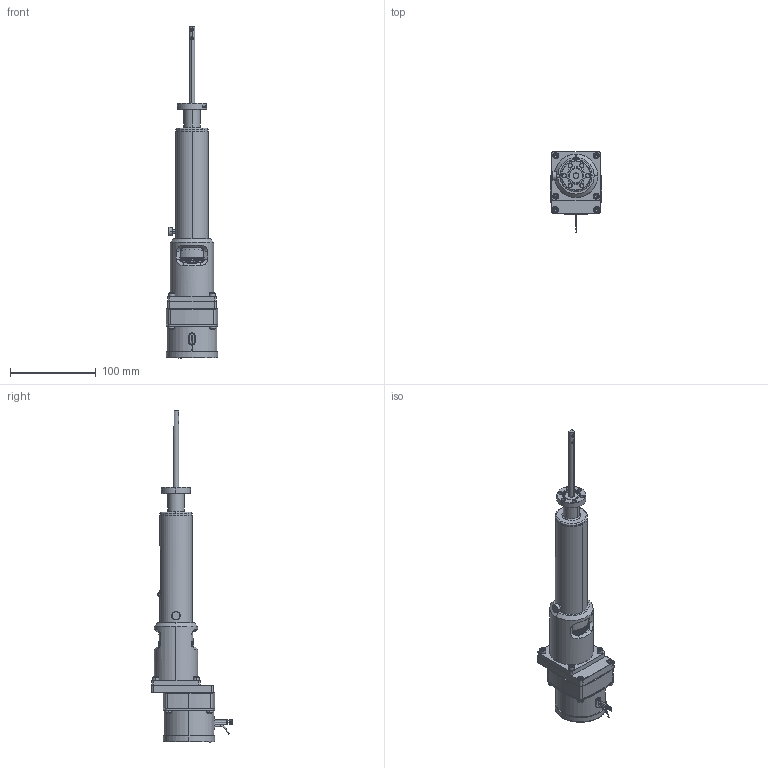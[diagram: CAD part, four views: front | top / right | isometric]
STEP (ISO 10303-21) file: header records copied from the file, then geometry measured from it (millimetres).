
FILE_DESCRIPTION (( 'STEP AP203' ), '1' );
FILE_NAME ('102210.21.stp', '2019-04-02T15:54:57', ( '' ), ( '' ), 'SwSTEP 2.0', 'SolidWorks 2012', '' );
FILE_SCHEMA (( 'CONFIG_CONTROL_DESIGN' ));
Products named in the file (1): 102210.21
Bounding box: 60.33 x 93.89 x 386.41 mm (x, y, z)
Volume: 502338.6 mm3; surface area: 60845.5 mm2
Topology: 1 solids, 10 shells, 1890 faces, 5239 edges, 3424 vertices
Faces by surface type: plane 1018, cylinder 524, cone 179, bspline 169
Entity records: 91715 total; most frequent: CARTESIAN_POINT 44440, ORIENTED_EDGE 10454, DIRECTION 9195, EDGE_CURVE 5227, VERTEX_POINT 3424, AXIS2_PLACEMENT_3D 3265, LINE 2665, VECTOR 2665
